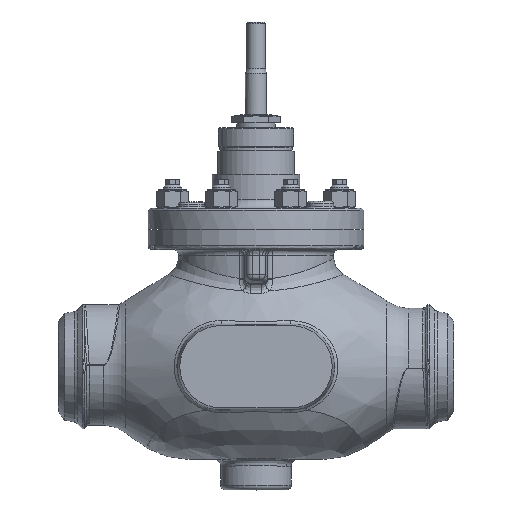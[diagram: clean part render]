
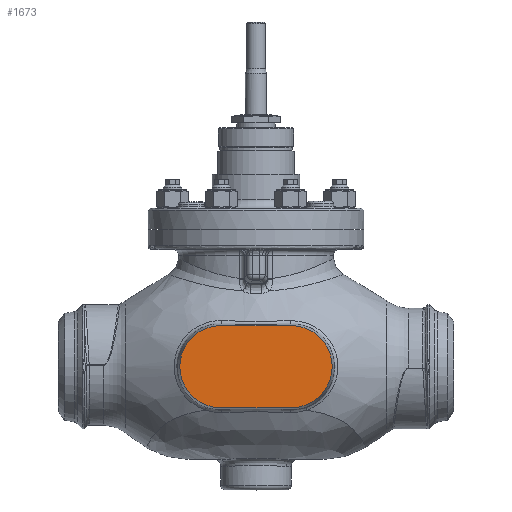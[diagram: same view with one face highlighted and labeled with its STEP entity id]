
A CAD part, top view. The second image highlights one B-rep face of the part: STEP entity #1673.
In plain terms, the highlighted planar face has unit normal (0, 0, 1).
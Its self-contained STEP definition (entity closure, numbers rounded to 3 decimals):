
#147=PLANE('',#8971);
#334=LINE('',#14699,#596);
#336=LINE('',#14735,#598);
#596=VECTOR('',#10126,1.);
#598=VECTOR('',#10134,1.);
#1182=FACE_OUTER_BOUND('',#2753,.T.);
#1673=ADVANCED_FACE('',(#1182),#147,.F.);
#2753=EDGE_LOOP('',(#4245,#4246,#4247,#4248));
#3531=CIRCLE('',#8965,35.);
#3532=CIRCLE('',#8968,35.);
#4245=ORIENTED_EDGE('',*,*,#7368,.F.);
#4246=ORIENTED_EDGE('',*,*,#7377,.F.);
#4247=ORIENTED_EDGE('',*,*,#7374,.F.);
#4248=ORIENTED_EDGE('',*,*,#7371,.F.);
#6559=VERTEX_POINT('',#14660);
#6563=VERTEX_POINT('',#14687);
#6564=VERTEX_POINT('',#14691);
#6568=VERTEX_POINT('',#14726);
#7368=EDGE_CURVE('',#6563,#6559,#3531,.T.);
#7371=EDGE_CURVE('',#6559,#6564,#334,.T.);
#7374=EDGE_CURVE('',#6564,#6568,#3532,.T.);
#7377=EDGE_CURVE('',#6568,#6563,#336,.T.);
#8965=AXIS2_PLACEMENT_3D('',#14688,#10121,#10122);
#8968=AXIS2_PLACEMENT_3D('',#14725,#10129,#10130);
#8971=AXIS2_PLACEMENT_3D('',#14737,#10137,#10138);
#10121=DIRECTION('',(0.,0.,-1.));
#10122=DIRECTION('',(-1.,0.,0.));
#10126=DIRECTION('',(-1.,0.,0.));
#10129=DIRECTION('',(0.,0.,-1.));
#10130=DIRECTION('',(-1.,0.,0.));
#10134=DIRECTION('',(1.,0.,0.));
#10137=DIRECTION('',(0.,0.,-1.));
#10138=DIRECTION('',(-1.,0.,0.));
#14660=CARTESIAN_POINT('',(30.,-39.75,95.));
#14687=CARTESIAN_POINT('',(30.,30.25,95.));
#14688=CARTESIAN_POINT('',(30.,-4.75,95.));
#14691=CARTESIAN_POINT('',(-30.,-39.75,95.));
#14699=CARTESIAN_POINT('',(30.,-39.75,95.));
#14725=CARTESIAN_POINT('',(-30.,-4.75,95.));
#14726=CARTESIAN_POINT('',(-30.,30.25,95.));
#14735=CARTESIAN_POINT('',(30.,30.25,95.));
#14737=CARTESIAN_POINT('',(30.,-4.75,95.));
